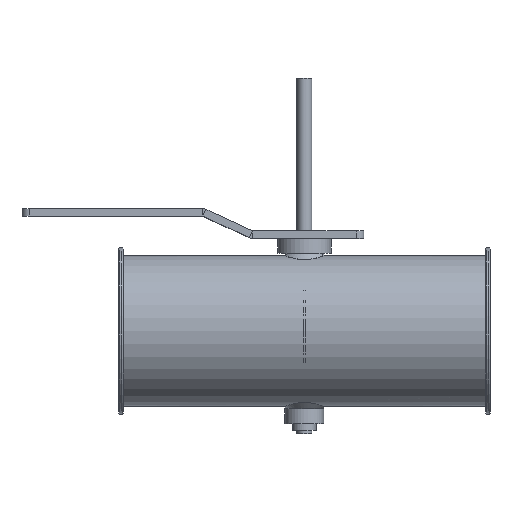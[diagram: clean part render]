
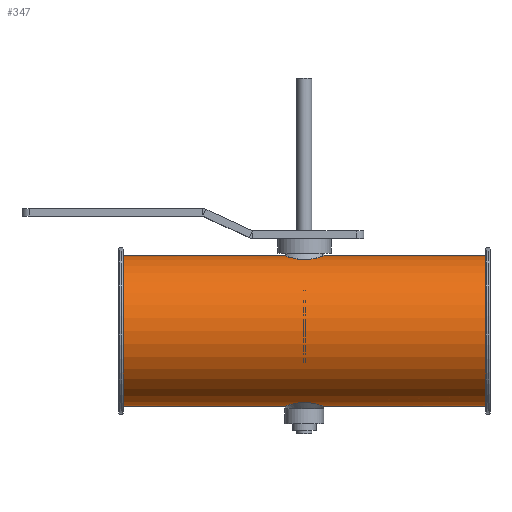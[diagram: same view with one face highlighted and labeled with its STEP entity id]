
A CAD part, top view. The second image highlights one B-rep face of the part: STEP entity #347.
In plain terms, the highlighted cylindrical face has radius 50.8 mm (diameter 101.6 mm), a full revolution.
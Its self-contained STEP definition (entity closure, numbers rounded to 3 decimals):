
#113=B_SPLINE_CURVE_WITH_KNOTS('',3,(#2045,#2046,#2047,#2048,#2049,#2050,
#2051,#2052,#2053,#2054,#2055,#2056,#2057,#2058,#2059,#2060,#2061,#2062,
#2063,#2064,#2065,#2066,#2067,#2068),.UNSPECIFIED.,.T.,.F.,(2,2,2,2,2,2,
2,2,2,2,2,2,2,2),(-0.063,0.,0.063,0.125,0.25,0.375,
0.438,0.5,0.625,0.75,0.875,0.938,1.,1.063),.UNSPECIFIED.);
#114=B_SPLINE_CURVE_WITH_KNOTS('',3,(#2070,#2071,#2072,#2073,#2074,#2075,
#2076,#2077,#2078,#2079,#2080,#2081,#2082,#2083,#2084,#2085,#2086,#2087,
#2088,#2089,#2090,#2091,#2092,#2093,#2094,#2095),.UNSPECIFIED.,.T.,.F.,(2,
2,2,2,2,2,2,2,2,2,2,2,2,2,2),(-0.062,0.,0.063,
0.125,0.25,0.375,0.438,0.5,
0.563,0.625,0.75,0.875,0.938,1.,1.063),.UNSPECIFIED.);
#285=CYLINDRICAL_SURFACE('',#1393,50.8);
#347=ADVANCED_FACE('',(#477,#478,#479,#480),#285,.T.);
#477=FACE_BOUND('',#637,.T.);
#478=FACE_BOUND('',#638,.T.);
#479=FACE_BOUND('',#639,.T.);
#480=FACE_BOUND('',#640,.T.);
#637=EDGE_LOOP('',(#901));
#638=EDGE_LOOP('',(#902));
#639=EDGE_LOOP('',(#903));
#640=EDGE_LOOP('',(#904));
#901=ORIENTED_EDGE('',*,*,#1177,.T.);
#902=ORIENTED_EDGE('',*,*,#1178,.T.);
#903=ORIENTED_EDGE('',*,*,#1179,.T.);
#904=ORIENTED_EDGE('',*,*,#1180,.F.);
#1045=VERTEX_POINT('',#2044);
#1046=VERTEX_POINT('',#2069);
#1047=VERTEX_POINT('',#2096);
#1048=VERTEX_POINT('',#2098);
#1177=EDGE_CURVE('',#1045,#1045,#1261,.T.);
#1178=EDGE_CURVE('',#1046,#1046,#113,.T.);
#1179=EDGE_CURVE('',#1047,#1047,#114,.T.);
#1180=EDGE_CURVE('',#1048,#1048,#1262,.T.);
#1261=CIRCLE('',#1391,50.8);
#1262=CIRCLE('',#1392,50.8);
#1391=AXIS2_PLACEMENT_3D('',#2043,#1701,#1702);
#1392=AXIS2_PLACEMENT_3D('',#2097,#1703,#1704);
#1393=AXIS2_PLACEMENT_3D('',#2099,#1705,#1706);
#1701=DIRECTION('',(1.,0.,0.));
#1702=DIRECTION('',(0.,0.,1.));
#1703=DIRECTION('',(1.,0.,0.));
#1704=DIRECTION('',(0.,0.,1.));
#1705=DIRECTION('',(1.,0.,0.));
#1706=DIRECTION('',(0.,0.,-1.));
#2043=CARTESIAN_POINT('',(-122.,-8.3,125.));
#2044=CARTESIAN_POINT('',(-122.,-8.3,175.8));
#2045=CARTESIAN_POINT('',(-0.641,-56.186,108.034));
#2046=CARTESIAN_POINT('',(-4.642,-56.512,108.986));
#2047=CARTESIAN_POINT('',(-6.468,-56.847,109.98));
#2048=CARTESIAN_POINT('',(-9.553,-57.571,112.56));
#2049=CARTESIAN_POINT('',(-10.827,-57.959,114.145));
#2050=CARTESIAN_POINT('',(-13.777,-58.917,119.411));
#2051=CARTESIAN_POINT('',(-14.546,-59.241,123.656));
#2052=CARTESIAN_POINT('',(-13.401,-58.819,131.681));
#2053=CARTESIAN_POINT('',(-11.513,-58.078,135.52));
#2054=CARTESIAN_POINT('',(-7.107,-56.98,139.59));
#2055=CARTESIAN_POINT('',(-5.35,-56.624,140.679));
#2056=CARTESIAN_POINT('',(-1.462,-56.217,141.883));
#2057=CARTESIAN_POINT('',(0.658,-56.187,141.964));
#2058=CARTESIAN_POINT('',(6.633,-56.676,140.537));
#2059=CARTESIAN_POINT('',(9.833,-57.636,137.623));
#2060=CARTESIAN_POINT('',(13.773,-58.916,130.604));
#2061=CARTESIAN_POINT('',(14.545,-59.241,126.368));
#2062=CARTESIAN_POINT('',(13.406,-58.821,118.329));
#2063=CARTESIAN_POINT('',(11.52,-58.081,114.494));
#2064=CARTESIAN_POINT('',(7.126,-56.984,110.424));
#2065=CARTESIAN_POINT('',(5.371,-56.627,109.329));
#2066=CARTESIAN_POINT('',(1.456,-56.216,108.114));
#2067=CARTESIAN_POINT('',(-0.641,-56.186,108.034));
#2068=CARTESIAN_POINT('',(-4.642,-56.512,108.986));
#2069=CARTESIAN_POINT('',(-2.641,-56.349,108.51));
#2070=CARTESIAN_POINT('',(-4.643,39.912,108.986));
#2071=CARTESIAN_POINT('',(-0.639,39.586,108.033));
#2072=CARTESIAN_POINT('',(1.467,39.617,108.117));
#2073=CARTESIAN_POINT('',(5.359,40.025,109.325));
#2074=CARTESIAN_POINT('',(7.129,40.385,110.426));
#2075=CARTESIAN_POINT('',(11.529,41.484,114.504));
#2076=CARTESIAN_POINT('',(13.415,42.224,118.36));
#2077=CARTESIAN_POINT('',(14.542,42.64,126.377));
#2078=CARTESIAN_POINT('',(13.758,42.311,130.637));
#2079=CARTESIAN_POINT('',(10.814,41.355,135.871));
#2080=CARTESIAN_POINT('',(9.527,40.964,137.467));
#2081=CARTESIAN_POINT('',(6.453,40.245,140.028));
#2082=CARTESIAN_POINT('',(4.6,39.908,141.028));
#2083=CARTESIAN_POINT('',(0.649,39.587,141.961));
#2084=CARTESIAN_POINT('',(-1.48,39.617,141.881));
#2085=CARTESIAN_POINT('',(-5.371,40.027,140.669));
#2086=CARTESIAN_POINT('',(-7.124,40.384,139.578));
#2087=CARTESIAN_POINT('',(-11.526,41.483,135.5));
#2088=CARTESIAN_POINT('',(-13.409,42.222,131.678));
#2089=CARTESIAN_POINT('',(-14.548,42.642,123.589));
#2090=CARTESIAN_POINT('',(-13.777,42.317,119.4));
#2091=CARTESIAN_POINT('',(-10.809,41.353,114.119));
#2092=CARTESIAN_POINT('',(-9.548,40.97,112.554));
#2093=CARTESIAN_POINT('',(-6.46,40.246,109.975));
#2094=CARTESIAN_POINT('',(-4.643,39.912,108.986));
#2095=CARTESIAN_POINT('',(-0.639,39.586,108.033));
#2096=CARTESIAN_POINT('',(-2.641,39.749,108.51));
#2097=CARTESIAN_POINT('',(122.,-8.3,125.));
#2098=CARTESIAN_POINT('',(122.,-8.3,175.8));
#2099=CARTESIAN_POINT('',(-125.,-8.3,125.));
